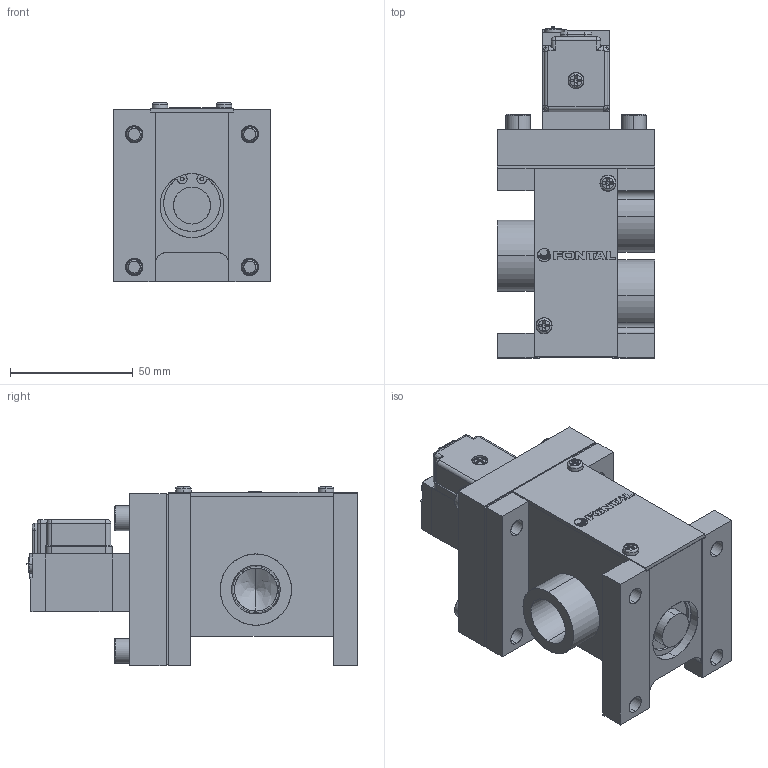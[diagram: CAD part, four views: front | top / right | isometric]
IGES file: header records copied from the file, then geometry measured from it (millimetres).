
Start section: SolidWorks IGES file using analytic representation for surfaces
Global section: file name: C:\Users\Toshiba\Desktop\PMS2310#-04-#G#.IGS; native system: SolidWorks 2014; preprocessor: SolidWorks 2014; author: Toshiba; date: 160122.115001; units: millimetre
Bounding box: 64 x 134.97 x 73.05 mm (x, y, z)
Surface area: 84231.7 mm2 (no closed solid volume)
Topology: 0 solids, 0 shells, 644 faces, 7416 edges, 7391 vertices
Faces by surface type: bspline 386, revolution 258
